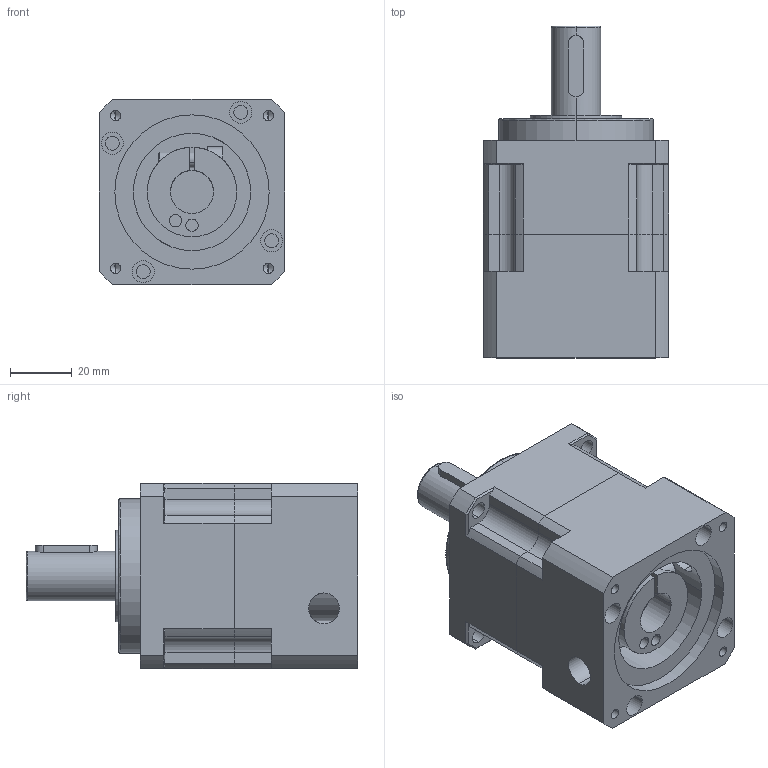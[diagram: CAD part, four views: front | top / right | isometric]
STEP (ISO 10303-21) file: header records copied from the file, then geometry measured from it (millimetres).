
FILE_DESCRIPTION (( 'STEP AP203' ), '1' );
FILE_NAME ('PLG060-L1-14-50-70.STEP', '2020-08-12T03:07:35', ( 'Windows User' ), ( 'P R C' ), 'SwSTEP 2.0', 'SolidWorks 2017', '' );
FILE_SCHEMA (( 'CONFIG_CONTROL_DESIGN' ));
Length unit declared in the file: millimetre
Products named in the file (5): PLG060奻裔啣; 囀鞠褒蹟佪-M5℅16; 邧埴瑩 5x5x20; PLG060-L1-14-50-70; PLG060狟裔啣14-50-70
Assembly tree (4 placements, depth 2):
  PLG060-L1-14-50-70
    PLG060奻裔啣
    PLG060狟裔啣14-50-70
    邧埴瑩 5x5x20
    囀鞠褒蹟佪-M5℅16
Bounding box: 60 x 107.5 x 60 mm (x, y, z)
Volume: 224890 mm3; surface area: 44832 mm2
Topology: 4 solids, 4 shells, 252 faces, 636 edges, 402 vertices
Faces by surface type: cylinder 126, plane 90, cone 28, bspline 8
Entity records: 8513 total; most frequent: CARTESIAN_POINT 1840, DIRECTION 1354, ORIENTED_EDGE 1236, EDGE_CURVE 618, AXIS2_PLACEMENT_3D 522, VERTEX_POINT 402, VECTOR 310, LINE 310
